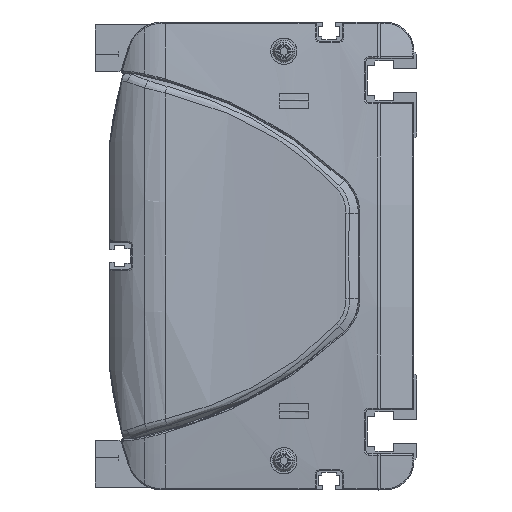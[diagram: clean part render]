
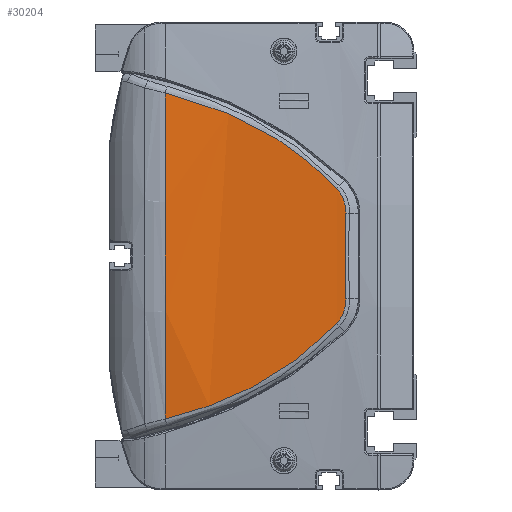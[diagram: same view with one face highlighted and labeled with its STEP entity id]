
A CAD part, left-side view. The second image highlights one B-rep face of the part: STEP entity #30204.
In plain terms, the highlighted cylindrical face has radius 600 mm (diameter 1200 mm), a partial arc.
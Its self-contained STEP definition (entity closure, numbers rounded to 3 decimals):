
#9308=CARTESIAN_POINT('',(-12.406,86.,55.736));
#9309=CARTESIAN_POINT('',(-12.529,80.495,54.41));
#9310=CARTESIAN_POINT('',(-12.828,69.636,51.114));
#9311=CARTESIAN_POINT('',(-13.389,54.079,44.179));
#9312=CARTESIAN_POINT('',(-14.01,39.709,34.979));
#9313=CARTESIAN_POINT('',(-14.395,31.353,27.243));
#9314=CARTESIAN_POINT('',(-14.555,27.451,23.113));
#9316=CARTESIAN_POINT('',(-14.555,27.451,23.113));
#9317=CARTESIAN_POINT('',(-14.641,25.336,20.875));
#9318=CARTESIAN_POINT('',(-14.745,24.202,17.745));
#9319=CARTESIAN_POINT('',(-14.821,24.351,14.67));
#9321=CARTESIAN_POINT('',(-14.821,24.351,14.67));
#9322=CARTESIAN_POINT('',(-14.9,24.51,11.413));
#9323=CARTESIAN_POINT('',(-15.007,24.721,4.895));
#9324=CARTESIAN_POINT('',(-15.007,24.721,
-4.895));
#9325=CARTESIAN_POINT('',(-14.9,24.51,
-11.413));
#9326=CARTESIAN_POINT('',(-14.821,24.351,
-14.67));
#9328=CARTESIAN_POINT('',(-14.821,24.351,
-14.67));
#9329=CARTESIAN_POINT('',(-14.745,24.202,
-17.745));
#9330=CARTESIAN_POINT('',(-14.641,25.337,
-20.876));
#9331=CARTESIAN_POINT('',(-14.555,27.451,
-23.113));
#9333=CARTESIAN_POINT('',(-14.555,27.451,
-23.113));
#9334=CARTESIAN_POINT('',(-14.395,31.353,
-27.243));
#9335=CARTESIAN_POINT('',(-14.01,39.709,
-34.979));
#9336=CARTESIAN_POINT('',(-13.389,54.079,
-44.179));
#9337=CARTESIAN_POINT('',(-12.828,69.636,
-51.114));
#9338=CARTESIAN_POINT('',(-12.529,80.495,
-54.41));
#9339=CARTESIAN_POINT('',(-12.406,86.,
-55.736));
#9341=CARTESIAN_POINT('',(585.,86.,0.));
#9342=DIRECTION('',(0.,1.,0.));
#9343=DIRECTION('',(-0.996,0.,-0.093));
#9344=AXIS2_PLACEMENT_3D('',#9341,#9342,#9343);
#9357=CARTESIAN_POINT('',(-12.406,86.,55.736));
#14521=VERTEX_POINT('',#9357);
#14522=CARTESIAN_POINT('',(-12.406,86.,
-55.736));
#14523=VERTEX_POINT('',#14522);
#14573=VERTEX_POINT('',#9314);
#14574=VERTEX_POINT('',#9319);
#14575=VERTEX_POINT('',#9326);
#14576=VERTEX_POINT('',#9331);
#30186=CARTESIAN_POINT('',(585.,87.45,0.));
#30187=DIRECTION('',(0.,-1.,0.));
#30188=DIRECTION('',(0.,0.,-1.));
#30189=AXIS2_PLACEMENT_3D('',#30186,#30187,#30188);
#30190=CYLINDRICAL_SURFACE('',#30189,600.);
#30192=ORIENTED_EDGE('',*,*,#30191,.T.);
#30194=ORIENTED_EDGE('',*,*,#30193,.T.);
#30195=ORIENTED_EDGE('',*,*,#30176,.T.);
#30197=ORIENTED_EDGE('',*,*,#30196,.T.);
#30199=ORIENTED_EDGE('',*,*,#30198,.T.);
#30201=ORIENTED_EDGE('',*,*,#30200,.T.);
#30202=EDGE_LOOP('',(#30192,#30194,#30195,#30197,#30199,#30201));
#30203=FACE_OUTER_BOUND('',#30202,.F.);
#30204=ADVANCED_FACE('',(#30203),#30190,.T.);
#9315=B_SPLINE_CURVE_WITH_KNOTS('',3,(#9308,#9309,#9310,#9311,#9312,#9313,
#9314),.UNSPECIFIED.,.F.,.F.,(4,1,1,1,4),(0.,0.25,0.5,0.75,1.),
.UNSPECIFIED.);
#9320=B_SPLINE_CURVE_WITH_KNOTS('',3,(#9316,#9317,#9318,#9319),.UNSPECIFIED.,
.F.,.F.,(4,4),(0.,1.),.UNSPECIFIED.);
#9327=B_SPLINE_CURVE_WITH_KNOTS('',3,(#9321,#9322,#9323,#9324,#9325,#9326),
.UNSPECIFIED.,.F.,.F.,(4,1,1,4),(0.,0.333,0.667,1.),
.UNSPECIFIED.);
#9332=B_SPLINE_CURVE_WITH_KNOTS('',3,(#9328,#9329,#9330,#9331),.UNSPECIFIED.,
.F.,.F.,(4,4),(0.,1.),.UNSPECIFIED.);
#9340=B_SPLINE_CURVE_WITH_KNOTS('',3,(#9333,#9334,#9335,#9336,#9337,#9338,
#9339),.UNSPECIFIED.,.F.,.F.,(4,1,1,1,4),(0.,0.25,0.5,0.75,1.),
.UNSPECIFIED.);
#9345=CIRCLE('',#9344,600.);
#30176=EDGE_CURVE('',#14574,#14575,#9327,.T.);
#30191=EDGE_CURVE('',#14521,#14573,#9315,.T.);
#30193=EDGE_CURVE('',#14573,#14574,#9320,.T.);
#30196=EDGE_CURVE('',#14575,#14576,#9332,.T.);
#30198=EDGE_CURVE('',#14576,#14523,#9340,.T.);
#30200=EDGE_CURVE('',#14523,#14521,#9345,.T.);
